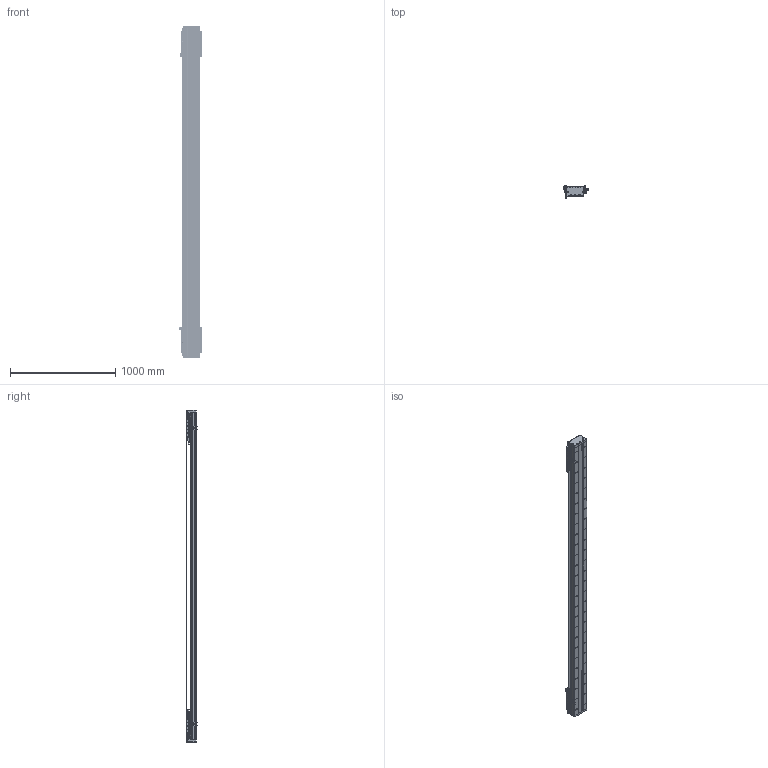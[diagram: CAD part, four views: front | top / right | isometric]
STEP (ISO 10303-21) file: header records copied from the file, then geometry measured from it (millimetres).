
FILE_DESCRIPTION (( 'STEP AP203' ), '1' );
FILE_NAME ('DA-C165-2-C3-T2540-C010-0.2 直线电机.STEP', '2023-06-13T09:15:46', ( '微软用户' ), ( '微软中国' ), 'SwSTEP 2.0', 'SolidWorks 2019', '' );
FILE_SCHEMA (( 'CONFIG_CONTROL_DESIGN' ));
Length unit declared in the file: millimetre
Products named in the file (22): 复件 DA126-GYP-ZJ-00 中间光电感应片^DA-C165-C3-T-C010-0.2-N 直线电机; IU-CU165-L 菁釱絳寢; 珨极趙賑雄怢啣C3-wf; 复件 DA165-GDLK-00 钢带拉块^复件 CU165钢带组件_DA-C165-C3-T-C010-0.2-N 直线电机; 葩璃 PM-T45^DA-C165-C3-T-C010-0.2-N 眻盄萇儂; 复件 XD-U-02L 磁栅尺^DA-C165-C3-T-C010-0.2-N 直线电机_T; 复件 DKW-HXJ-JY-00 缓冲橡胶^DA-C165-C3-T-C010-0.2-N 直线电机; 复件 DMA-010-0.2 读数头^DA-C165-C3-T-C010-0.2-N 直线电机; DA-C165-2-C3-T2540-C010-0.2 眻盄萇儂; 复件 CU165 底座^IU-CU165-L 底座导轨_L3120; 复件 DA95-HXJ-00 缓冲橡胶^DA-C165-C3-T-C010-0.2-N 直线电机; 复件 六角薄螺母 M3^DA-C165-C3-T-C010-0.2-N 直线电机_GB_FASTENER_NUT_STNAB M3-C; 复件 DA165-GDYK-00 钢带压块^复件 CU165钢带组件_DA-C165-C3-T-C010-0.2-N 直线电机; 复件 DA165-GD-1860-002-00 钢带盖板^复件 CU165钢带组件_DA-C165-C3-T-C010-0.2-N 直线电机; 葩璃 DA95-GT-T-00^IU-CU165-L 菁釱絳寢_T; 葩璃 CKM03-W075-C1C2-TP-3.0^DA-C165-C3-T-C010-0.2-N 眻盄萇儂; 葩璃 PM-Y45^DA-C165-C3-T-C010-0.2-N 眻盄萇儂; 复件 DA165-GYP-00 光电感应片^DA-C165-C3-T-C010-0.2-N 直线电机; 复件 CU165钢带组件^DA-C165-C3-T-C010-0.2-N 直线电机; 葩璃 CKM01-W075-TRL^DA-C165-C3-T-C010-0.2-N 眻盄萇儂; 复件 66338-1000-006-00 光电感应块^DA-C165-C3-T-C010-0.2-N 直线电机; 复件 DA165-GD-DG-H-00 端盖^复件 CU165钢带组件_DA-C165-C3-T-C010-0.2-N 直线电机
Assembly tree (45 placements, depth 3):
  DA-C165-2-C3-T2540-C010-0.2 眻盄萇儂
    IU-CU165-L 菁釱絳寢
      复件 CU165 底座^IU-CU165-L 底座导轨_L3120
      葩璃 DA95-GT-T-00^IU-CU165-L 菁釱絳寢_T  x4
    复件 XD-U-02L 磁栅尺^DA-C165-C3-T-C010-0.2-N 直线电机_T
    葩璃 PM-T45^DA-C165-C3-T-C010-0.2-N 眻盄萇儂  x4
    葩璃 CKM01-W075-TRL^DA-C165-C3-T-C010-0.2-N 眻盄萇儂
    复件 CU165钢带组件^DA-C165-C3-T-C010-0.2-N 直线电机
      复件 DA165-GD-DG-H-00 端盖^复件 CU165钢带组件_DA-C165-C3-T-C010-0.2-N 直线电机  x2
      复件 DA165-GDYK-00 钢带压块^复件 CU165钢带组件_DA-C165-C3-T-C010-0.2-N 直线电机  x2
      复件 DA165-GD-1860-002-00 钢带盖板^复件 CU165钢带组件_DA-C165-C3-T-C010-0.2-N 直线电机
      复件 DA165-GDLK-00 钢带拉块^复件 CU165钢带组件_DA-C165-C3-T-C010-0.2-N 直线电机  x2
    复件 DA95-HXJ-00 缓冲橡胶^DA-C165-C3-T-C010-0.2-N 直线电机  x4
    复件 DMA-010-0.2 读数头^DA-C165-C3-T-C010-0.2-N 直线电机  x2
    复件 DA165-GYP-00 光电感应片^DA-C165-C3-T-C010-0.2-N 直线电机  x2
    复件 66338-1000-006-00 光电感应块^DA-C165-C3-T-C010-0.2-N 直线电机
    葩璃 PM-Y45^DA-C165-C3-T-C010-0.2-N 眻盄萇儂
    复件 DA126-GYP-ZJ-00 中间光电感应片^DA-C165-C3-T-C010-0.2-N 直线电机
    葩璃 CKM03-W075-C1C2-TP-3.0^DA-C165-C3-T-C010-0.2-N 眻盄萇儂  x2
    复件 DKW-HXJ-JY-00 缓冲橡胶^DA-C165-C3-T-C010-0.2-N 直线电机  x2
    复件 六角薄螺母 M3^DA-C165-C3-T-C010-0.2-N 直线电机_GB_FASTENER_NUT_STNAB M3-C  x8
    珨极趙賑雄怢啣C3-wf  x2
Bounding box: 247.2 x 111.45 x 3160 mm (x, y, z)
Volume: 19822163.5 mm3; surface area: 5688640.7 mm2
Topology: 121 solids, 221 shells, 6821 faces, 18884 edges, 11802 vertices
Faces by surface type: cylinder 3718, plane 2035, cone 980, torus 80, sphere 8
Entity records: 161440 total; most frequent: CARTESIAN_POINT 44155, ORIENTED_EDGE 24352, DIRECTION 23570, EDGE_CURVE 12176, AXIS2_PLACEMENT_3D 9029, VERTEX_POINT 7956, EDGE_LOOP 5626, LINE 5512
